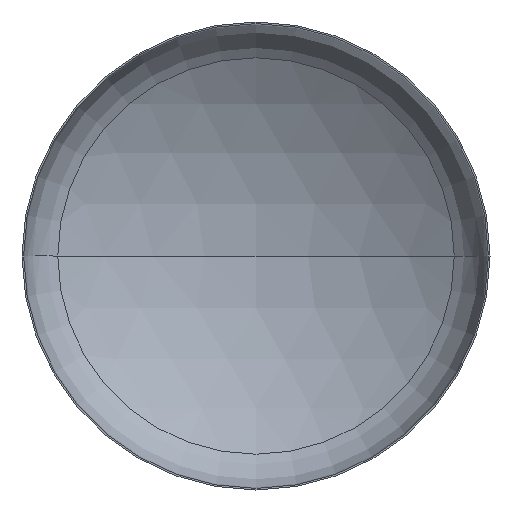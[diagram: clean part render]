
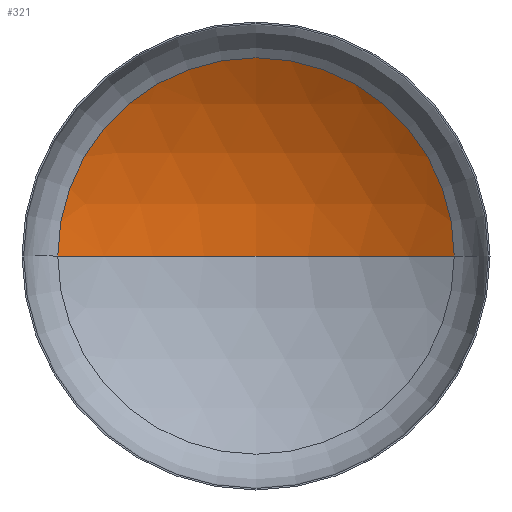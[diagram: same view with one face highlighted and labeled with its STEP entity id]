
A CAD part, front view. The second image highlights one B-rep face of the part: STEP entity #321.
In plain terms, the highlighted spherical face has radius 1600 mm.
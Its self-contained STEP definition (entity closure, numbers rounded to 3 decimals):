
#2 = AXIS2_PLACEMENT_3D ( 'NONE', #234, #401, #262 ) ;
#6 = AXIS2_PLACEMENT_3D ( 'NONE', #398, #206, #375 ) ;
#15 = CARTESIAN_POINT ( 'NONE',  ( 0., 530.646, 0. ) ) ;
#20 = AXIS2_PLACEMENT_3D ( 'NONE', #249, #363, #171 ) ;
#23 = AXIS2_PLACEMENT_3D ( 'NONE', #277, #370, #226 ) ;
#24 = VERTEX_POINT ( 'NONE', #287 ) ;
#58 = VERTEX_POINT ( 'NONE', #15 ) ;
#61 = VERTEX_POINT ( 'NONE', #275 ) ;
#64 = EDGE_LOOP ( 'NONE', ( #149, #136, #88 ) ) ;
#88 = ORIENTED_EDGE ( 'NONE', *, *, #333, .T. ) ;
#132 = CIRCLE ( 'NONE', #23, 847.132 ) ;
#136 = ORIENTED_EDGE ( 'NONE', *, *, #356, .T. ) ;
#149 = ORIENTED_EDGE ( 'NONE', *, *, #355, .F. ) ;
#171 = DIRECTION ( 'NONE',  ( -1., 0., 0. ) ) ;
#203 = SPHERICAL_SURFACE ( 'NONE', #20, 1600. ) ;
#206 = DIRECTION ( 'NONE',  ( 0., 0., 1. ) ) ;
#226 = DIRECTION ( 'NONE',  ( 1., 0., 0. ) ) ;
#234 = CARTESIAN_POINT ( 'NONE',  ( 0., -1069.354, 0. ) ) ;
#249 = CARTESIAN_POINT ( 'NONE',  ( 0., -1069.354, 0. ) ) ;
#256 = CIRCLE ( 'NONE', #2, 1600. ) ;
#262 = DIRECTION ( 'NONE',  ( -1., 0., 0. ) ) ;
#275 = CARTESIAN_POINT ( 'NONE',  ( 847.132, 287.984, 0. ) ) ;
#277 = CARTESIAN_POINT ( 'NONE',  ( 0., 287.984, 0. ) ) ;
#287 = CARTESIAN_POINT ( 'NONE',  ( -847.132, 287.984, 0. ) ) ;
#316 = CIRCLE ( 'NONE', #6, 1600. ) ;
#321 = ADVANCED_FACE ( 'NONE', ( #335 ), #203, .F. ) ;
#333 = EDGE_CURVE ( 'NONE', #61, #24, #132, .T. ) ;
#335 = FACE_OUTER_BOUND ( 'NONE', #64, .T. ) ;
#355 = EDGE_CURVE ( 'NONE', #58, #24, #316, .T. ) ;
#356 = EDGE_CURVE ( 'NONE', #58, #61, #256, .T. ) ;
#363 = DIRECTION ( 'NONE',  ( 0., 0., -1. ) ) ;
#370 = DIRECTION ( 'NONE',  ( 0., -1., 0. ) ) ;
#375 = DIRECTION ( 'NONE',  ( 1., 0., 0. ) ) ;
#398 = CARTESIAN_POINT ( 'NONE',  ( 0., -1069.354, 0. ) ) ;
#401 = DIRECTION ( 'NONE',  ( 0., 0., -1. ) ) ;
